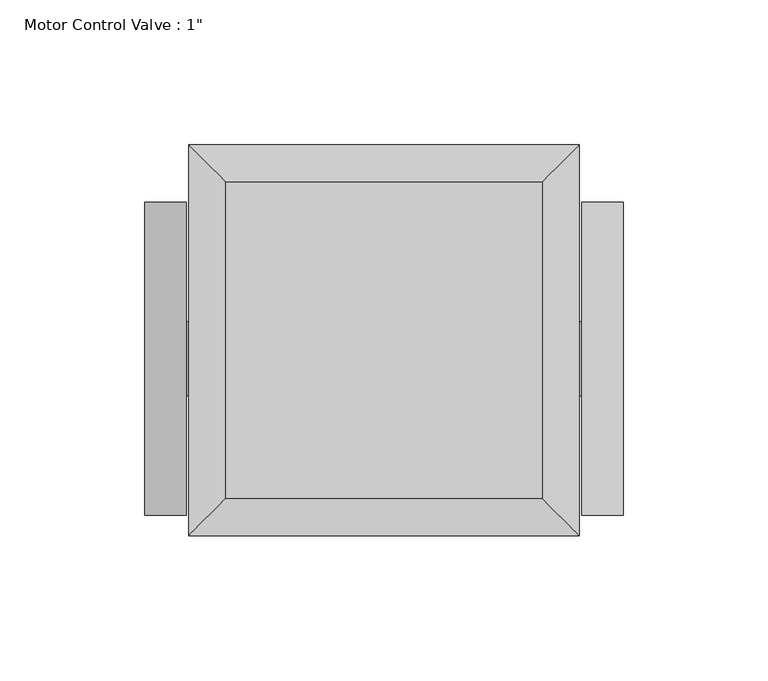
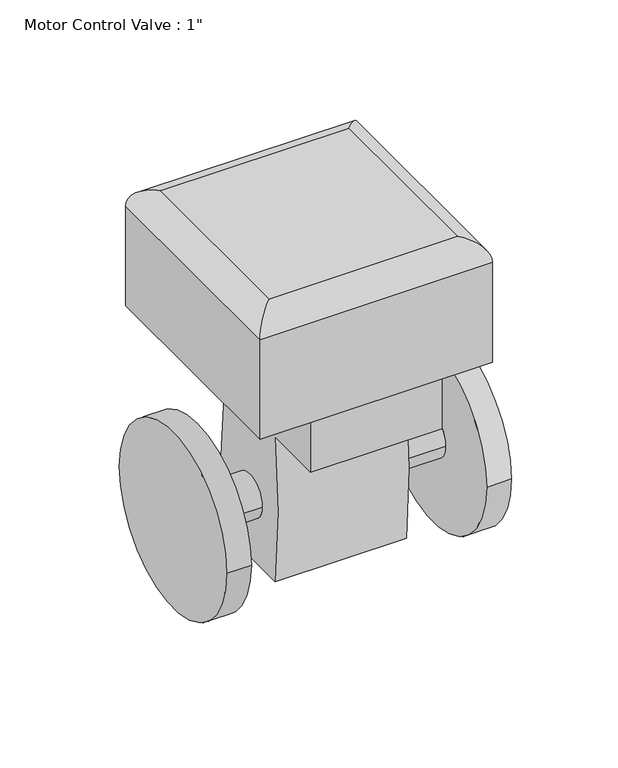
"""IFC4 building model written with IfcOpenShell, lengths in millimetres: valve geometry."""

from ifc_helpers import new_model, si_unit, frame, origin, place, context, project, spatial, circle_curve, ellipse_curve, source, transform, mapped, element, save
from ifc_brep_helpers import plane_surface, cylinder_surface, advanced_brep


def valve_aba45018(model_context):
    return source(origin(), model_context, "Body", "AdvancedBrep", [
        advanced_brep(
        [(67.46875, 73.81875, 142.2796875), (54.76875, 61.11875, 154.9796875), (54.76875, -48.41875, 154.9796875), (67.46875, -61.11875, 142.2796875), (-54.76875, -48.41875, 154.9796875), (-67.46875, -61.11875, 142.2796875), (-54.76875, 61.11875, 154.9796875), (-67.46875, 73.81875, 142.2796875), (67.46875, -61.11875, 81.1609375), (-67.46875, -61.11875, 81.1609375), (67.46875, 73.81875, 81.1609375), (-67.46875, 73.81875, 81.1609375)],
        [
            (0, 1, ellipse_curve(frame((54.76875, 61.11875, 142.2796875), z_axis=(0.7071067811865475, -0.7071067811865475, 0.0), x_axis=(0.7071067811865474, 0.7071067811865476, 0.0)), 17.9605122, 12.7)),
            (1, 2),
            (2, 3, ellipse_curve(frame((54.76875, -48.41875, 142.2796875), z_axis=(0.7071067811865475, 0.7071067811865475, 0.0), x_axis=(-0.7071067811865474, 0.7071067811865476, 0.0)), 17.9605122, 12.7)),
            (3, 0),
            (2, 4),
            (4, 5, ellipse_curve(frame((-54.76875, -48.41875, 142.2796875), z_axis=(0.7071067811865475, -0.7071067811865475, 0.0), x_axis=(0.7071067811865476, 0.7071067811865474, 0.0)), 17.9605122, 12.7)),
            (5, 3),
            (4, 6),
            (6, 7, ellipse_curve(frame((-54.76875, 61.11875, 142.2796875), z_axis=(-0.7071067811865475, -0.7071067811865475, 0.0), x_axis=(0.7071067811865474, -0.7071067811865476, 0.0)), 17.9605122, 12.7)),
            (7, 5),
            (0, 7),
            (6, 1),
            (8, 3),
            (5, 9),
            (9, 8),
            (10, 11),
            (11, 7),
            (0, 10),
            (8, 10),
            (11, 9),
        ],
        [
            cylinder_surface(frame((54.76875, 73.81875, 142.2796875), z_axis=(0.0, 1.0, 0.0), x_axis=(1.0, 0.0, 0.0)), 12.7),
            cylinder_surface(frame((67.46875, -48.41875, 142.2796875), z_axis=(1.0, 0.0, 0.0), x_axis=(0.0, -1.0, 0.0)), 12.7),
            cylinder_surface(frame((-54.76875, -61.11875, 142.2796875), z_axis=(0.0, -1.0, 0.0), x_axis=(-1.0, 0.0, 0.0)), 12.7),
            cylinder_surface(frame((-67.46875, 61.11875, 142.2796875), z_axis=(-1.0, 0.0, 0.0), x_axis=(0.0, 1.0, 0.0)), 12.7),
            plane_surface(frame((67.46875, -61.11875, 81.1609375), z_axis=(0.0, -1.0, 0.0), x_axis=(0.0, 0.0, 1.0))),
            plane_surface(frame((67.46875, 73.81875, 81.1609375), z_axis=(0.0, 1.0, 0.0), x_axis=(0.0, 0.0, -1.0))),
            plane_surface(frame((67.46875, -61.11875, 81.1609375), z_axis=(1.0, 0.0, 0.0), x_axis=(0.0, 1.0, 0.0))),
            plane_surface(frame((-67.46875, -61.11875, 142.2796875), z_axis=(-1.0, 0.0, 0.0), x_axis=(0.0, 1.0, 0.0))),
            plane_surface(frame((-67.46875, -61.11875, 81.1609375), z_axis=(0.0, 0.0, -1.0), x_axis=(0.0, 1.0, 0.0))),
            plane_surface(frame((54.76875, -48.41875, 154.9796875), z_axis=(0.0, 0.0, 1.0), x_axis=(0.0, 1.0, 0.0))),
        ],
        [
            (0, [[1, 2, 3, 4]]),
            (1, [[-3, 5, 6, 7]]),
            (2, [[-6, 8, 9, 10]]),
            (3, [[-1, 11, -9, 12]]),
            (4, [[13, -7, 14, 15]]),
            (5, [[16, 17, -11, 18]]),
            (6, [[-13, 19, -18, -4]]),
            (7, [[-14, -10, -17, 20]]),
            (8, [[-15, -20, -16, -19]]),
            (9, [[-2, -12, -8, -5]]),
        ],
    ),
        advanced_brep(
        [(-82.55, -53.975, 0.0), (-82.55, 53.975, 0.0), (-68.2625, -53.975, 0.0), (-68.2625, 53.975, 0.0), (-68.2625, -12.7, 0.0), (-68.2625, 12.7, 0.0), (-38.1, -12.7, 0.0), (-38.1, 12.7, 0.0), (38.1, -25.4, 50.8), (38.1, -25.4, -38.1), (38.1, 26.4101883, -38.1), (38.1, 25.4, 50.8), (38.1, 61.11875, 50.8), (38.1, 61.11875, 81.1609375), (38.1, -61.11875, 81.1609375), (38.1, -61.11875, 50.8), (38.1, -12.7, 0.0), (38.1, 12.7, 0.0), (-38.1, 25.4, 50.8), (-38.1, 26.4101883, -38.1), (-38.1, -25.4, -38.1), (-38.1, -25.4, 50.8), (-38.1, -61.11875, 50.8), (-38.1, -61.11875, 81.1609375), (-38.1, 61.11875, 81.1609375), (-38.1, 61.11875, 50.8), (68.2625, 12.7, 0.0), (68.2625, -12.7, 0.0), (82.55, 53.975, 0.0), (82.55, -53.975, 0.0), (68.2625, 53.975, 0.0), (68.2625, -53.975, 0.0)],
        [
            (0, 1, circle_curve(frame((-82.55, 0.0, 0.0), z_axis=(-1.0, 0.0, 0.0), x_axis=(0.0, 1.0, 0.0)), 53.975)),
            (1, 0, circle_curve(frame((-82.55, 0.0, 0.0), z_axis=(-1.0, 0.0, 0.0), x_axis=(0.0, 1.0, 0.0)), 53.975)),
            (2, 3, circle_curve(frame((-68.2625, 0.0, 0.0), z_axis=(1.0, 0.0, 0.0), x_axis=(0.0, 1.0, 0.0)), 53.975)),
            (3, 2, circle_curve(frame((-68.2625, 0.0, 0.0), z_axis=(1.0, 0.0, 0.0), x_axis=(0.0, 1.0, 0.0)), 53.975)),
            (4, 5, circle_curve(frame((-68.2625, 0.0, 0.0), z_axis=(-1.0, 0.0, 0.0), x_axis=(0.0, 1.0, 0.0)), 12.7)),
            (5, 4, circle_curve(frame((-68.2625, 0.0, 0.0), z_axis=(-1.0, 0.0, 0.0), x_axis=(0.0, 1.0, 0.0)), 12.7)),
            (0, 2),
            (3, 1),
            (4, 6),
            (6, 7, circle_curve(frame((-38.1, 0.0, 0.0), z_axis=(-1.0, 0.0, 0.0), x_axis=(0.0, 1.0, 0.0)), 12.7)),
            (7, 5),
            (7, 6, circle_curve(frame((-38.1, 0.0, 0.0), z_axis=(-1.0, 0.0, 0.0), x_axis=(0.0, 1.0, 0.0)), 12.7)),
            (8, 9, circle_curve(frame((38.1, 310.2610039, 6.35), z_axis=(1.0, 0.0, 0.0), x_axis=(0.0, 1.0, 0.0)), 338.5913644)),
            (9, 10),
            (10, 11, circle_curve(frame((38.1, -310.2610039, 2.5300781), z_axis=(1.0, 0.0, 0.0), x_axis=(0.0, 1.0, 0.0)), 339.1139851)),
            (11, 12),
            (12, 13),
            (13, 14),
            (14, 15),
            (15, 8),
            (16, 17, circle_curve(frame((38.1, 0.0, 0.0), z_axis=(-1.0, 0.0, 0.0), x_axis=(0.0, -1.0, 0.0)), 12.7)),
            (17, 16, circle_curve(frame((38.1, 0.0, 0.0), z_axis=(-1.0, 0.0, 0.0), x_axis=(0.0, -1.0, 0.0)), 12.7)),
            (18, 19, circle_curve(frame((-38.1, -310.2610039, 2.5300781), z_axis=(-1.0, 0.0, 0.0), x_axis=(0.0, 1.0, 0.0)), 339.1139851)),
            (19, 20),
            (20, 21, circle_curve(frame((-38.1, 310.2610039, 6.35), z_axis=(-1.0, 0.0, 0.0), x_axis=(0.0, 1.0, 0.0)), 338.5913644)),
            (21, 22),
            (22, 23),
            (23, 24),
            (24, 25),
            (25, 18),
            (8, 21),
            (20, 9),
            (19, 10),
            (18, 11),
            (26, 17),
            (16, 27),
            (27, 26, circle_curve(frame((68.2625, 0.0, 0.0), z_axis=(-1.0, 0.0, 0.0), x_axis=(0.0, -1.0, 0.0)), 12.7)),
            (26, 27, circle_curve(frame((68.2625, 0.0, 0.0), z_axis=(-1.0, 0.0, 0.0), x_axis=(0.0, -1.0, 0.0)), 12.7)),
            (28, 29, circle_curve(frame((82.55, 0.0, 0.0), z_axis=(1.0, 0.0, 0.0), x_axis=(0.0, -1.0, 0.0)), 53.975)),
            (29, 28, circle_curve(frame((82.55, 0.0, 0.0), z_axis=(1.0, 0.0, 0.0), x_axis=(0.0, -1.0, 0.0)), 53.975)),
            (30, 31, circle_curve(frame((68.2625, 0.0, 0.0), z_axis=(-1.0, 0.0, 0.0), x_axis=(0.0, -1.0, 0.0)), 53.975)),
            (31, 30, circle_curve(frame((68.2625, 0.0, 0.0), z_axis=(-1.0, 0.0, 0.0), x_axis=(0.0, -1.0, 0.0)), 53.975)),
            (28, 30),
            (31, 29),
            (12, 25),
            (24, 13),
            (23, 14),
            (22, 15),
        ],
        [
            plane_surface(frame((-82.55, 0.0, 0.0), z_axis=(-1.0, 0.0, 0.0), x_axis=(0.0, 0.0, 1.0))),
            plane_surface(frame((-68.2625, 0.0, 0.0), z_axis=(1.0, 0.0, 0.0), x_axis=(0.0, 0.0, 1.0))),
            cylinder_surface(frame((-82.55, 0.0, 0.0), z_axis=(-1.0, 0.0, 0.0), x_axis=(0.0, 1.0, 0.0)), 53.975),
            cylinder_surface(frame((-68.2625, 0.0, 0.0), z_axis=(-1.0, 0.0, 0.0), x_axis=(0.0, 1.0, 0.0)), 12.7),
            plane_surface(frame((38.1, -25.4, 50.8), z_axis=(1.0, 0.0, 0.0), x_axis=(0.0, -1.0, 0.0))),
            plane_surface(frame((-38.1, -25.4, 50.8), z_axis=(-1.0, 0.0, 0.0), x_axis=(0.0, 1.0, 0.0))),
            cylinder_surface(frame((-38.1, 310.2610039, 6.35), z_axis=(1.0, 0.0, 0.0), x_axis=(0.0, 1.0, 0.0)), 338.5913644),
            plane_surface(frame((38.1, -25.4, -38.1), z_axis=(0.0, 0.0, -1.0), x_axis=(-1.0, 0.0, 0.0))),
            cylinder_surface(frame((-38.1, -310.2610039, 2.5300781), z_axis=(1.0, 0.0, 0.0), x_axis=(0.0, 1.0, 0.0)), 339.1139851),
            cylinder_surface(frame((68.2625, 0.0, 0.0), z_axis=(1.0, 0.0, 0.0), x_axis=(0.0, -1.0, 0.0)), 12.7),
            plane_surface(frame((82.55, 0.0, 0.0), z_axis=(1.0, 0.0, 0.0), x_axis=(0.0, 0.0, 1.0))),
            plane_surface(frame((68.2625, 0.0, 0.0), z_axis=(-1.0, 0.0, 0.0), x_axis=(0.0, 0.0, 1.0))),
            cylinder_surface(frame((82.55, 0.0, 0.0), z_axis=(1.0, 0.0, 0.0), x_axis=(0.0, -1.0, 0.0)), 53.975),
            plane_surface(frame((38.1, 61.11875, 50.8), z_axis=(0.0, 1.0, 0.0), x_axis=(-1.0, 0.0, 0.0))),
            plane_surface(frame((38.1, 61.11875, 81.1609375), z_axis=(0.0, 0.0, 1.0), x_axis=(-1.0, 0.0, 0.0))),
            plane_surface(frame((38.1, -61.11875, 81.1609375), z_axis=(0.0, -1.0, 0.0), x_axis=(-1.0, 0.0, 0.0))),
            plane_surface(frame((38.1, -61.11875, 50.8), z_axis=(0.0, 0.0, -1.0), x_axis=(-1.0, 0.0, 0.0))),
        ],
        [
            (0, [[1, 2]]),
            (1, [[3, 4], [5, 6]]),
            (2, [[-1, 7, -4, 8]]),
            (2, [[-2, -8, -3, -7]]),
            (3, [[9, 10, 11, -5]]),
            (3, [[-9, -6, -11, 12]]),
            (4, [[13, 14, 15, 16, 17, 18, 19, 20], [21, 22]]),
            (5, [[23, 24, 25, 26, 27, 28, 29, 30], [-10, -12]]),
            (6, [[-13, 31, -25, 32]]),
            (7, [[-14, -32, -24, 33]]),
            (8, [[-15, -33, -23, 34]]),
            (9, [[35, -21, 36, 37]]),
            (9, [[-35, 38, -36, -22]]),
            (10, [[39, 40]]),
            (11, [[41, 42], [-37, -38]]),
            (12, [[-39, 43, -42, 44]]),
            (12, [[-40, -44, -41, -43]]),
            (13, [[-17, 45, -29, 46]]),
            (14, [[-18, -46, -28, 47]]),
            (15, [[-19, -47, -27, 48]]),
            (16, [[-45, -16, -34, -30]]),
            (16, [[-48, -26, -31, -20]]),
        ],
    ),
    ])


if __name__ == "__main__":
    model = new_model("IFC4")
    model_context = context("Model", 3, world=origin())
    ifc_project = project(units=[si_unit("LENGTHUNIT", "METRE", prefix="MILLI")], contexts=[model_context])
    site = spatial("IfcSite", under=ifc_project)
    building = spatial("IfcBuilding", under=site)
    placement = place(None, origin())
    valve_shape = valve_aba45018(model_context)
    element("IfcValve", 1, ObjectType="Motor Control Valve : 1\"", at=placement, inside=building, context=model_context, shape_type="MappedRepresentation", body=[
        mapped(valve_shape, transform((0.0, 0.0, 0.0), x_axis=(1.0, 0.0, 0.0), y_axis=(0.0, 1.0, 0.0), z_axis=(0.0, 0.0, 1.0))),
    ])
    save(model, "model.ifc")
